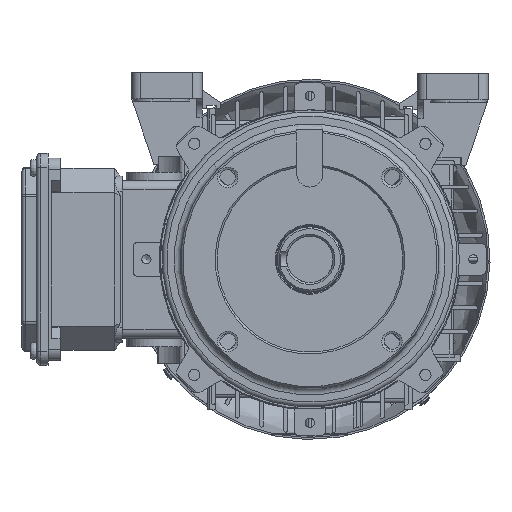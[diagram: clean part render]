
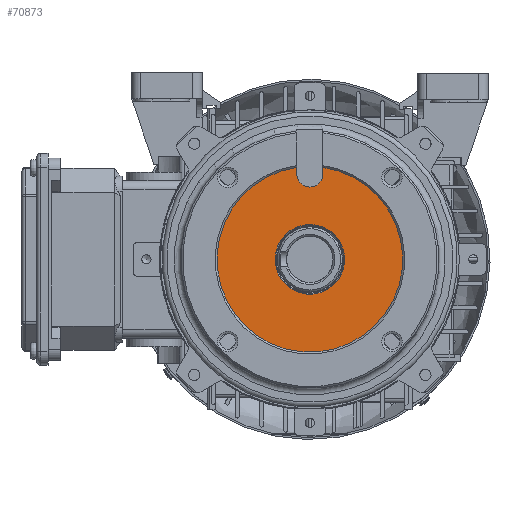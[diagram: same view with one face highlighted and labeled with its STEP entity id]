
A CAD part, left-side view. The second image highlights one B-rep face of the part: STEP entity #70873.
In plain terms, the highlighted planar face has unit normal (-1, 0, 0).
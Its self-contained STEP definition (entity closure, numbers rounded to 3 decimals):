
#1197=FACE_BOUND('',#10156,.T.);
#3127=PLANE('',#76574);
#6250=FACE_OUTER_BOUND('',#10155,.T.);
#10155=EDGE_LOOP('',(#59584,#59585,#59586,#59587));
#10156=EDGE_LOOP('',(#59588));
#12943=CIRCLE('',#76296,7.);
#13004=CIRCLE('',#76440,18.75);
#13088=CIRCLE('',#76575,50.);
#19774=LINE('',#118278,#26062);
#19783=LINE('',#118339,#26071);
#26062=VECTOR('',#92804,3.57);
#26071=VECTOR('',#92827,3.57);
#32246=VERTEX_POINT('',#118275);
#32247=VERTEX_POINT('',#118277);
#32263=VERTEX_POINT('',#118336);
#32264=VERTEX_POINT('',#118338);
#32465=VERTEX_POINT('',#119314);
#41556=EDGE_CURVE('',#32247,#32246,#19774,.T.);
#41575=EDGE_CURVE('',#32264,#32263,#19783,.T.);
#41578=EDGE_CURVE('',#32246,#32264,#12943,.F.);
#41832=EDGE_CURVE('',#32465,#32465,#13004,.T.);
#41924=EDGE_CURVE('',#32247,#32263,#13088,.T.);
#59584=ORIENTED_EDGE('',*,*,#41578,.T.);
#59585=ORIENTED_EDGE('',*,*,#41575,.T.);
#59586=ORIENTED_EDGE('',*,*,#41924,.F.);
#59587=ORIENTED_EDGE('',*,*,#41556,.T.);
#59588=ORIENTED_EDGE('',*,*,#41832,.T.);
#70873=ADVANCED_FACE('',(#6250,#1197),#3127,.T.);
#76296=AXIS2_PLACEMENT_3D('',#118348,#92831,#92832);
#76440=AXIS2_PLACEMENT_3D('',#119316,#93244,#93245);
#76574=AXIS2_PLACEMENT_3D('',#119489,#93520,#93521);
#76575=AXIS2_PLACEMENT_3D('',#119490,#93522,#93523);
#92804=DIRECTION('',(0.,0.,-1.));
#92827=DIRECTION('',(0.,0.,1.));
#92831=DIRECTION('center_axis',(-1.,0.,0.));
#92832=DIRECTION('ref_axis',(0.,0.707,-0.707));
#93244=DIRECTION('center_axis',(1.,0.,0.));
#93245=DIRECTION('ref_axis',(0.,-0.707,0.707));
#93520=DIRECTION('center_axis',(-1.,0.,0.));
#93521=DIRECTION('ref_axis',(0.,0.707,-0.707));
#93522=DIRECTION('center_axis',(1.,0.,0.));
#93523=DIRECTION('ref_axis',(0.,-0.707,0.707));
#118275=CARTESIAN_POINT('',(-120.,-7.,45.937));
#118277=CARTESIAN_POINT('',(-120.,-7.,49.508));
#118278=CARTESIAN_POINT('',(-120.,-7.,35.355));
#118336=CARTESIAN_POINT('',(-120.,7.,49.508));
#118338=CARTESIAN_POINT('',(-120.,7.,45.937));
#118339=CARTESIAN_POINT('',(-120.,7.,35.355));
#118348=CARTESIAN_POINT('Origin',(-120.,0.,45.937));
#119314=CARTESIAN_POINT('',(-120.,-13.258,13.258));
#119316=CARTESIAN_POINT('Origin',(-120.,0.,0.));
#119489=CARTESIAN_POINT('Origin',(-120.,-35.355,35.355));
#119490=CARTESIAN_POINT('Origin',(-120.,0.,0.));
